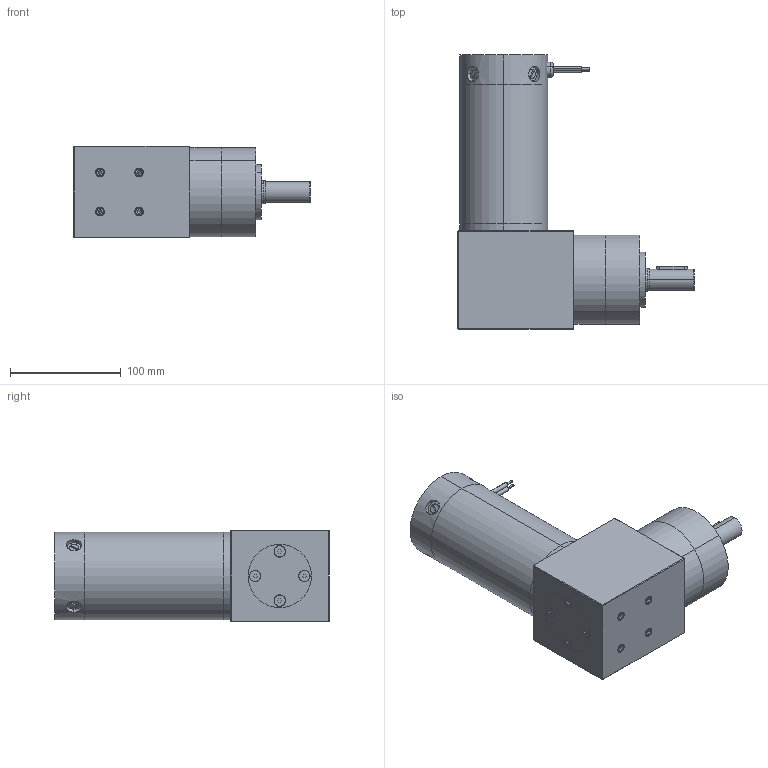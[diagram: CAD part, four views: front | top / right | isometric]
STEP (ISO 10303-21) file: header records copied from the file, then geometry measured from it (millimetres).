
FILE_DESCRIPTION (( 'STEP AP203' ), '1' );
FILE_NAME ('d33655bgra1.step', '2018-12-07T19:43:54', ( '' ), ( '' ), 'SwSTEP 2.0', 'SolidWorks 2017', '' );
FILE_SCHEMA (( 'CONFIG_CONTROL_DESIGN' ));
Length unit declared in the file: inch
Products named in the file (1): d33655bgra1
Bounding box: 213.32 x 247.4 x 82.55 mm (x, y, z)
Volume: 1875173.4 mm3; surface area: 211650.8 mm2
Topology: 27 solids, 27 shells, 1098 faces, 2779 edges, 1784 vertices
Faces by surface type: cylinder 689, plane 294, cone 89, torus 14, bspline 8, sphere 4
Entity records: 52347 total; most frequent: CARTESIAN_POINT 28532, ORIENTED_EDGE 5510, DIRECTION 4454, EDGE_CURVE 2755, VERTEX_POINT 1784, AXIS2_PLACEMENT_3D 1638, EDGE_LOOP 1203, VECTOR 1178
